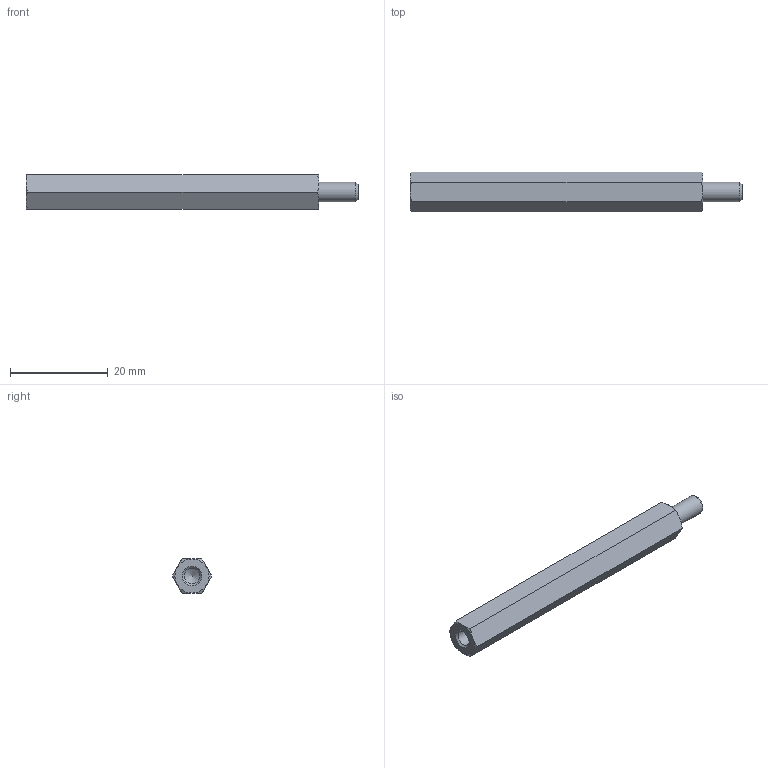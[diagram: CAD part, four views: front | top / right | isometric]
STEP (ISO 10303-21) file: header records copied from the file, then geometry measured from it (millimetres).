
FILE_DESCRIPTION( ( 'STEP AP203' ), '1' );
FILE_NAME( 'C:/Temp/Ganter_Step_05_03_2020/data/3_2/gn6220/gn6220_ni/Stainless Steel-Spacer GN 6220-NI-M4-60-B.stp', '2020-03-13T05:43:11', ( 'License CC BY-ND 4.0' ), ( 'CADENAS' ), ' ', 'PARTsolutions', ' ' );
FILE_SCHEMA( ( 'CONFIG_CONTROL_DESIGN' ) );
Length unit declared in the file: millimetre
Products named in the file (1): _Stainless Steel-Spacer GN 6220-NI-M4-60-B
Bounding box: 68 x 8.08 x 7 mm (x, y, z)
Volume: 2527.5 mm3; surface area: 1772.8 mm2
Topology: 1 solids, 1 shells, 26 faces, 55 edges, 32 vertices
Faces by surface type: cone 15, plane 9, cylinder 2
Full cylindrical faces by diameter (mm): 3.242 x1, 4 x1
Entity records: 746 total; most frequent: CARTESIAN_POINT 210, DIRECTION 96, ORIENTED_EDGE 96, EDGE_CURVE 48, AXIS2_PLACEMENT_3D 45, EDGE_LOOP 32, VERTEX_POINT 31, FACE_OUTER_BOUND 28
